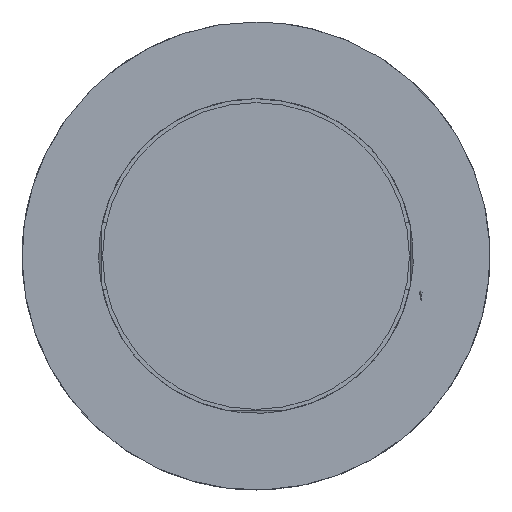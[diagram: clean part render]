
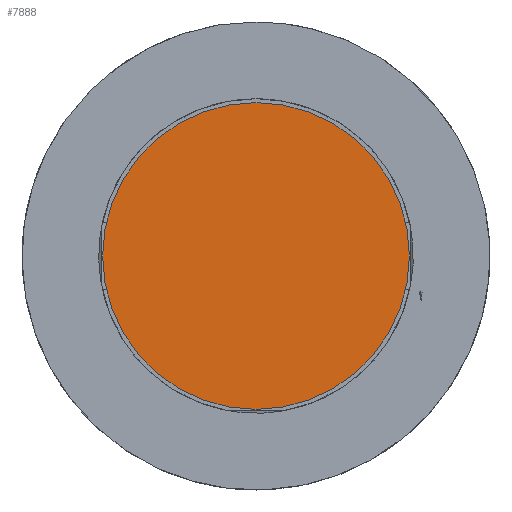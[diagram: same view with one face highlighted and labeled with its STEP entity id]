
A CAD part, left-side view. The second image highlights one B-rep face of the part: STEP entity #7888.
In plain terms, the highlighted planar face has unit normal (-1, 0, 0).
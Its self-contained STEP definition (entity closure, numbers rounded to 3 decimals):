
#7888=ADVANCED_FACE('',(#14643),#14645,.T.);
#14643=FACE_BOUND('',#14644,.T.);
#14644=EDGE_LOOP('',(#19760));
#14645=PLANE('',#14646);
#14646=AXIS2_PLACEMENT_3D('',#14647,#14648,#14649);
#14647=CARTESIAN_POINT('',(2787.138,1659.434,266.213));
#14648=DIRECTION('',(-1.,0.,0.));
#14649=DIRECTION('',(0.,-1.,0.));
#19760=ORIENTED_EDGE('',*,*,#22325,.F.);
#22325=EDGE_CURVE('',#26566,#26566,#26567,.T.);
#26566=VERTEX_POINT('',#40552);
#26567=CIRCLE('',#40553,39.);
#40552=CARTESIAN_POINT('',(2787.138,1659.434,188.213));
#40553=AXIS2_PLACEMENT_3D('',#40554,#40555,#40556);
#40554=CARTESIAN_POINT('',(2787.138,1659.434,227.213));
#40555=DIRECTION('',(1.,0.,0.));
#40556=DIRECTION('',(0.,0.,1.));
